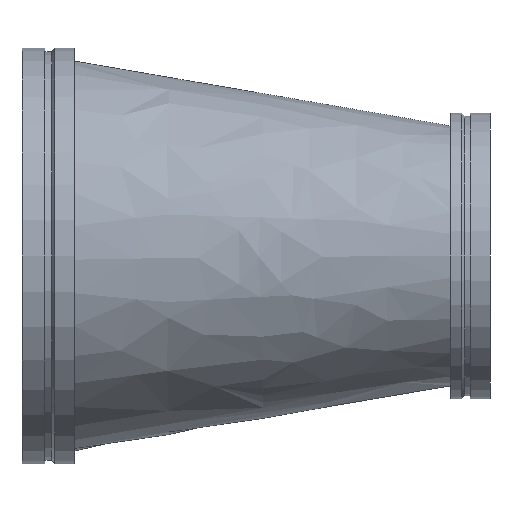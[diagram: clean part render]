
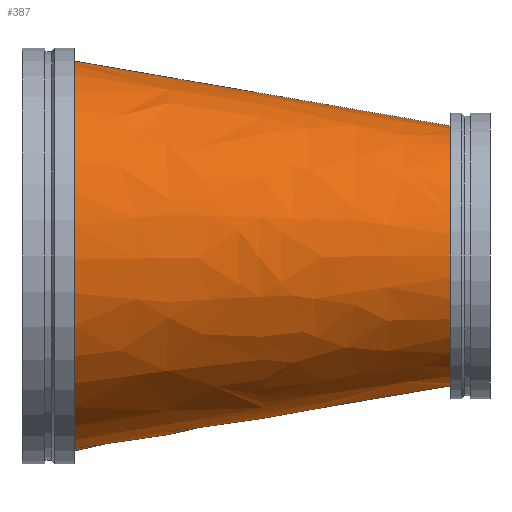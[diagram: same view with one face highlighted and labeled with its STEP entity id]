
A CAD part, front view. The second image highlights one B-rep face of the part: STEP entity #387.
In plain terms, the highlighted free-form (B-spline) face has degree [1, 2] with [2, 9] control points.
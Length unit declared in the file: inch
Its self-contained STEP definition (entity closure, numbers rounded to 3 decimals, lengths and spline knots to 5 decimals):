
#46=B_SPLINE_CURVE_WITH_KNOTS('',1,(#747,#748),.UNSPECIFIED.,.F.,.F.,(2,
2),(-1.99233,-0.00471),.UNSPECIFIED.);
#48=(
BOUNDED_SURFACE()
B_SPLINE_SURFACE(1,2,((#729,#730,#731,#732,#733,#734,#735,#736,#737),(#738,
#739,#740,#741,#742,#743,#744,#745,#746)),.UNSPECIFIED.,.F.,.T.,.F.)
B_SPLINE_SURFACE_WITH_KNOTS((2,2),(3,2,2,2,3),(-0.16757,2.10091),
(-3.14159,-1.5708,0.,1.5708,3.14159),
 .UNSPECIFIED.)
GEOMETRIC_REPRESENTATION_ITEM()
RATIONAL_B_SPLINE_SURFACE(((1.,0.707,1.,0.707,1.,
0.707,1.,0.707,1.),(1.,0.707,1.,0.707,
1.,0.707,1.,0.707,1.)))
REPRESENTATION_ITEM('')
SURFACE()
);
#98=FACE_OUTER_BOUND('',#120,.T.);
#120=EDGE_LOOP('',(#321,#322,#323,#324,#325,#326));
#129=CIRCLE('',#415,10.);
#130=CIRCLE('',#416,10.);
#153=CIRCLE('',#450,15.);
#154=CIRCLE('',#451,15.);
#166=VERTEX_POINT('',#628);
#167=VERTEX_POINT('',#629);
#190=VERTEX_POINT('',#695);
#191=VERTEX_POINT('',#696);
#203=EDGE_CURVE('',#166,#167,#129,.T.);
#204=EDGE_CURVE('',#167,#166,#130,.T.);
#235=EDGE_CURVE('',#190,#191,#153,.T.);
#236=EDGE_CURVE('',#191,#190,#154,.T.);
#243=EDGE_CURVE('',#167,#191,#46,.T.);
#321=ORIENTED_EDGE('',*,*,#203,.T.);
#322=ORIENTED_EDGE('',*,*,#243,.T.);
#323=ORIENTED_EDGE('',*,*,#236,.T.);
#324=ORIENTED_EDGE('',*,*,#235,.T.);
#325=ORIENTED_EDGE('',*,*,#243,.F.);
#326=ORIENTED_EDGE('',*,*,#204,.T.);
#387=ADVANCED_FACE('',(#98),#48,.F.);
#415=AXIS2_PLACEMENT_3D('',#630,#486,#487);
#416=AXIS2_PLACEMENT_3D('',#631,#488,#489);
#450=AXIS2_PLACEMENT_3D('',#697,#564,#565);
#451=AXIS2_PLACEMENT_3D('',#698,#566,#567);
#486=DIRECTION('center_axis',(-1.,0.,0.));
#487=DIRECTION('ref_axis',(0.,-1.,0.));
#488=DIRECTION('center_axis',(-1.,0.,0.));
#489=DIRECTION('ref_axis',(0.,-1.,0.));
#564=DIRECTION('center_axis',(1.,0.,0.));
#565=DIRECTION('ref_axis',(0.,1.,0.));
#566=DIRECTION('center_axis',(1.,0.,0.));
#567=DIRECTION('ref_axis',(0.,1.,0.));
#628=CARTESIAN_POINT('',(33.,-15.,0.));
#629=CARTESIAN_POINT('',(33.,-5.2808,9.99606));
#630=CARTESIAN_POINT('Origin',(33.,-5.,0.));
#631=CARTESIAN_POINT('Origin',(33.,-5.,0.));
#695=CARTESIAN_POINT('',(4.,15.,0.));
#696=CARTESIAN_POINT('',(4.,-0.42121,14.99408));
#697=CARTESIAN_POINT('Origin',(4.,0.,0.));
#698=CARTESIAN_POINT('Origin',(4.,0.,0.));
#729=CARTESIAN_POINT('Ctrl Pts',(1.48642,0.,
15.42729));
#730=CARTESIAN_POINT('Ctrl Pts',(-1.02717,-15.,15.42729));
#731=CARTESIAN_POINT('Ctrl Pts',(-1.02717,-15.,0.));
#732=CARTESIAN_POINT('Ctrl Pts',(-1.02717,-15.,-15.42729));
#733=CARTESIAN_POINT('Ctrl Pts',(1.48642,0.,
-15.42729));
#734=CARTESIAN_POINT('Ctrl Pts',(4.,15.,-15.42729));
#735=CARTESIAN_POINT('Ctrl Pts',(4.,15.,0.));
#736=CARTESIAN_POINT('Ctrl Pts',(4.,15.,15.42729));
#737=CARTESIAN_POINT('Ctrl Pts',(1.48642,0.,
15.42729));
#738=CARTESIAN_POINT('Ctrl Pts',(34.58418,-5.54627,9.72303));
#739=CARTESIAN_POINT('Ctrl Pts',(33.,-15.,9.72303));
#740=CARTESIAN_POINT('Ctrl Pts',(33.,-15.,0.));
#741=CARTESIAN_POINT('Ctrl Pts',(33.,-15.,-9.72303));
#742=CARTESIAN_POINT('Ctrl Pts',(34.58418,-5.54627,-9.72303));
#743=CARTESIAN_POINT('Ctrl Pts',(36.16837,3.90746,-9.72303));
#744=CARTESIAN_POINT('Ctrl Pts',(36.16837,3.90746,0.));
#745=CARTESIAN_POINT('Ctrl Pts',(36.16837,3.90746,9.72303));
#746=CARTESIAN_POINT('Ctrl Pts',(34.58418,-5.54627,9.72303));
#747=CARTESIAN_POINT('Ctrl Pts',(33.,-5.2808,9.99606));
#748=CARTESIAN_POINT('Ctrl Pts',(4.,-0.42121,14.99408));
